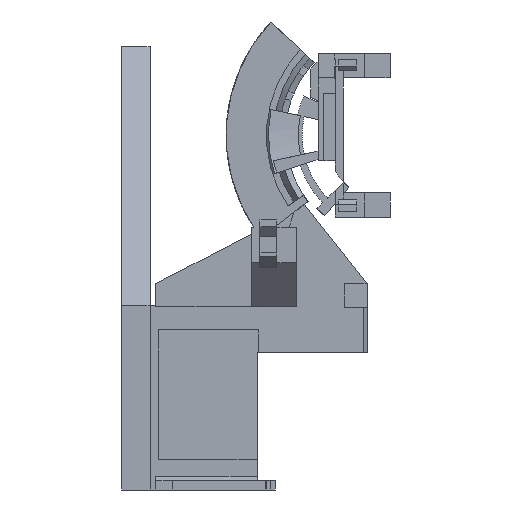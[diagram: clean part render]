
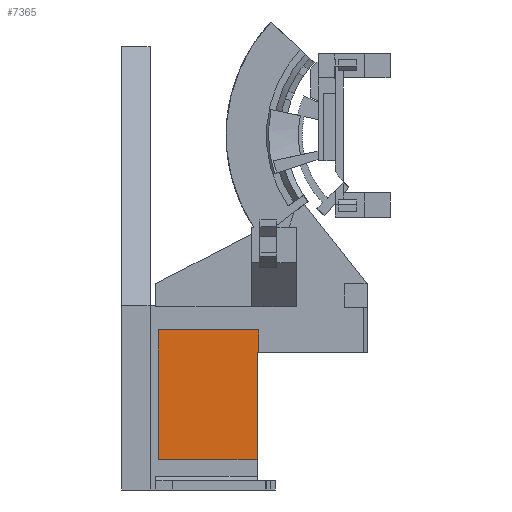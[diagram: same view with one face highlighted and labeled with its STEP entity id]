
A CAD part, front view. The second image highlights one B-rep face of the part: STEP entity #7365.
In plain terms, the highlighted planar face has unit normal (0, -1, 0).
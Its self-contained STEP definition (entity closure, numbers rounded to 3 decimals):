
#514 = PLANE('',#515);
#515 = AXIS2_PLACEMENT_3D('',#516,#517,#518);
#516 = CARTESIAN_POINT('',(24.,38.65,0.6));
#517 = DIRECTION('',(-1.,0.,0.));
#518 = DIRECTION('',(0.,0.,1.));
#1596 = VERTEX_POINT('',#1597);
#1597 = CARTESIAN_POINT('',(24.,36.05,6.));
#1611 = PLANE('',#1612);
#1612 = AXIS2_PLACEMENT_3D('',#1613,#1614,#1615);
#1613 = CARTESIAN_POINT('',(5.75,35.05,6.));
#1614 = DIRECTION('',(0.,0.,1.));
#1615 = DIRECTION('',(1.,0.,-0.));
#1623 = EDGE_CURVE('',#1624,#1596,#1626,.T.);
#1624 = VERTEX_POINT('',#1625);
#1625 = CARTESIAN_POINT('',(24.,36.05,25.));
#1626 = SURFACE_CURVE('',#1627,(#1631,#1638),.PCURVE_S1.);
#1627 = LINE('',#1628,#1629);
#1628 = CARTESIAN_POINT('',(24.,36.05,3.3));
#1629 = VECTOR('',#1630,1.);
#1630 = DIRECTION('',(0.,0.,-1.));
#1631 = PCURVE('',#514,#1632);
#1632 = DEFINITIONAL_REPRESENTATION('',(#1633),#1637);
#1633 = LINE('',#1634,#1635);
#1634 = CARTESIAN_POINT('',(2.7,-2.6));
#1635 = VECTOR('',#1636,1.);
#1636 = DIRECTION('',(-1.,0.));
#1637 = ( GEOMETRIC_REPRESENTATION_CONTEXT(2) 
PARAMETRIC_REPRESENTATION_CONTEXT() REPRESENTATION_CONTEXT('2D SPACE',''
  ) );
#1638 = PCURVE('',#1639,#1644);
#1639 = PLANE('',#1640);
#1640 = AXIS2_PLACEMENT_3D('',#1641,#1642,#1643);
#1641 = CARTESIAN_POINT('',(5.75,36.05,6.));
#1642 = DIRECTION('',(-0.,1.,0.));
#1643 = DIRECTION('',(0.,0.,1.));
#1644 = DEFINITIONAL_REPRESENTATION('',(#1645),#1649);
#1645 = LINE('',#1646,#1647);
#1646 = CARTESIAN_POINT('',(-2.7,18.25));
#1647 = VECTOR('',#1648,1.);
#1648 = DIRECTION('',(-1.,0.));
#1649 = ( GEOMETRIC_REPRESENTATION_CONTEXT(2) 
PARAMETRIC_REPRESENTATION_CONTEXT() REPRESENTATION_CONTEXT('2D SPACE',''
  ) );
#1665 = PLANE('',#1666);
#1666 = AXIS2_PLACEMENT_3D('',#1667,#1668,#1669);
#1667 = CARTESIAN_POINT('',(24.,38.65,25.));
#1668 = DIRECTION('',(-0.,0.,1.));
#1669 = DIRECTION('',(1.,0.,0.));
#7080 = PLANE('',#7081);
#7081 = AXIS2_PLACEMENT_3D('',#7082,#7083,#7084);
#7082 = CARTESIAN_POINT('',(24.25,35.05,6.));
#7083 = DIRECTION('',(1.,0.,-0.));
#7084 = DIRECTION('',(0.,0.,1.));
#7108 = PLANE('',#7109);
#7109 = AXIS2_PLACEMENT_3D('',#7110,#7111,#7112);
#7110 = CARTESIAN_POINT('',(5.75,35.05,29.));
#7111 = DIRECTION('',(0.,0.,1.));
#7112 = DIRECTION('',(1.,0.,-0.));
#7136 = PLANE('',#7137);
#7137 = AXIS2_PLACEMENT_3D('',#7138,#7139,#7140);
#7138 = CARTESIAN_POINT('',(6.5,35.15,0.6));
#7139 = DIRECTION('',(1.,0.,-0.));
#7140 = DIRECTION('',(0.,0.,1.));
#7271 = EDGE_CURVE('',#7272,#1624,#7274,.T.);
#7272 = VERTEX_POINT('',#7273);
#7273 = CARTESIAN_POINT('',(24.25,36.05,25.));
#7274 = SURFACE_CURVE('',#7275,(#7279,#7286),.PCURVE_S1.);
#7275 = LINE('',#7276,#7277);
#7276 = CARTESIAN_POINT('',(14.875,36.05,25.));
#7277 = VECTOR('',#7278,1.);
#7278 = DIRECTION('',(-1.,0.,0.));
#7279 = PCURVE('',#1665,#7280);
#7280 = DEFINITIONAL_REPRESENTATION('',(#7281),#7285);
#7281 = LINE('',#7282,#7283);
#7282 = CARTESIAN_POINT('',(-9.125,-2.6));
#7283 = VECTOR('',#7284,1.);
#7284 = DIRECTION('',(-1.,0.));
#7285 = ( GEOMETRIC_REPRESENTATION_CONTEXT(2) 
PARAMETRIC_REPRESENTATION_CONTEXT() REPRESENTATION_CONTEXT('2D SPACE',''
  ) );
#7286 = PCURVE('',#1639,#7287);
#7287 = DEFINITIONAL_REPRESENTATION('',(#7288),#7292);
#7288 = LINE('',#7289,#7290);
#7289 = CARTESIAN_POINT('',(19.,9.125));
#7290 = VECTOR('',#7291,1.);
#7291 = DIRECTION('',(0.,-1.));
#7292 = ( GEOMETRIC_REPRESENTATION_CONTEXT(2) 
PARAMETRIC_REPRESENTATION_CONTEXT() REPRESENTATION_CONTEXT('2D SPACE',''
  ) );
#7365 = ADVANCED_FACE('',(#7366),#1639,.F.);
#7366 = FACE_BOUND('',#7367,.F.);
#7367 = EDGE_LOOP('',(#7368,#7391,#7414,#7437,#7458,#7459));
#7368 = ORIENTED_EDGE('',*,*,#7369,.F.);
#7369 = EDGE_CURVE('',#7370,#1596,#7372,.T.);
#7370 = VERTEX_POINT('',#7371);
#7371 = CARTESIAN_POINT('',(6.5,36.05,6.));
#7372 = SURFACE_CURVE('',#7373,(#7377,#7384),.PCURVE_S1.);
#7373 = LINE('',#7374,#7375);
#7374 = CARTESIAN_POINT('',(5.75,36.05,6.));
#7375 = VECTOR('',#7376,1.);
#7376 = DIRECTION('',(1.,0.,-0.));
#7377 = PCURVE('',#1639,#7378);
#7378 = DEFINITIONAL_REPRESENTATION('',(#7379),#7383);
#7379 = LINE('',#7380,#7381);
#7380 = CARTESIAN_POINT('',(0.,0.));
#7381 = VECTOR('',#7382,1.);
#7382 = DIRECTION('',(0.,1.));
#7383 = ( GEOMETRIC_REPRESENTATION_CONTEXT(2) 
PARAMETRIC_REPRESENTATION_CONTEXT() REPRESENTATION_CONTEXT('2D SPACE',''
  ) );
#7384 = PCURVE('',#1611,#7385);
#7385 = DEFINITIONAL_REPRESENTATION('',(#7386),#7390);
#7386 = LINE('',#7387,#7388);
#7387 = CARTESIAN_POINT('',(0.,1.));
#7388 = VECTOR('',#7389,1.);
#7389 = DIRECTION('',(1.,0.));
#7390 = ( GEOMETRIC_REPRESENTATION_CONTEXT(2) 
PARAMETRIC_REPRESENTATION_CONTEXT() REPRESENTATION_CONTEXT('2D SPACE',''
  ) );
#7391 = ORIENTED_EDGE('',*,*,#7392,.F.);
#7392 = EDGE_CURVE('',#7393,#7370,#7395,.T.);
#7393 = VERTEX_POINT('',#7394);
#7394 = CARTESIAN_POINT('',(6.5,36.05,29.));
#7395 = SURFACE_CURVE('',#7396,(#7400,#7407),.PCURVE_S1.);
#7396 = LINE('',#7397,#7398);
#7397 = CARTESIAN_POINT('',(6.5,36.05,3.3));
#7398 = VECTOR('',#7399,1.);
#7399 = DIRECTION('',(-0.,0.,-1.));
#7400 = PCURVE('',#1639,#7401);
#7401 = DEFINITIONAL_REPRESENTATION('',(#7402),#7406);
#7402 = LINE('',#7403,#7404);
#7403 = CARTESIAN_POINT('',(-2.7,0.75));
#7404 = VECTOR('',#7405,1.);
#7405 = DIRECTION('',(-1.,0.));
#7406 = ( GEOMETRIC_REPRESENTATION_CONTEXT(2) 
PARAMETRIC_REPRESENTATION_CONTEXT() REPRESENTATION_CONTEXT('2D SPACE',''
  ) );
#7407 = PCURVE('',#7136,#7408);
#7408 = DEFINITIONAL_REPRESENTATION('',(#7409),#7413);
#7409 = LINE('',#7410,#7411);
#7410 = CARTESIAN_POINT('',(2.7,-0.9));
#7411 = VECTOR('',#7412,1.);
#7412 = DIRECTION('',(-1.,-0.));
#7413 = ( GEOMETRIC_REPRESENTATION_CONTEXT(2) 
PARAMETRIC_REPRESENTATION_CONTEXT() REPRESENTATION_CONTEXT('2D SPACE',''
  ) );
#7414 = ORIENTED_EDGE('',*,*,#7415,.T.);
#7415 = EDGE_CURVE('',#7393,#7416,#7418,.T.);
#7416 = VERTEX_POINT('',#7417);
#7417 = CARTESIAN_POINT('',(24.25,36.05,29.));
#7418 = SURFACE_CURVE('',#7419,(#7423,#7430),.PCURVE_S1.);
#7419 = LINE('',#7420,#7421);
#7420 = CARTESIAN_POINT('',(5.75,36.05,29.));
#7421 = VECTOR('',#7422,1.);
#7422 = DIRECTION('',(1.,0.,-0.));
#7423 = PCURVE('',#1639,#7424);
#7424 = DEFINITIONAL_REPRESENTATION('',(#7425),#7429);
#7425 = LINE('',#7426,#7427);
#7426 = CARTESIAN_POINT('',(23.,0.));
#7427 = VECTOR('',#7428,1.);
#7428 = DIRECTION('',(0.,1.));
#7429 = ( GEOMETRIC_REPRESENTATION_CONTEXT(2) 
PARAMETRIC_REPRESENTATION_CONTEXT() REPRESENTATION_CONTEXT('2D SPACE',''
  ) );
#7430 = PCURVE('',#7108,#7431);
#7431 = DEFINITIONAL_REPRESENTATION('',(#7432),#7436);
#7432 = LINE('',#7433,#7434);
#7433 = CARTESIAN_POINT('',(0.,1.));
#7434 = VECTOR('',#7435,1.);
#7435 = DIRECTION('',(1.,0.));
#7436 = ( GEOMETRIC_REPRESENTATION_CONTEXT(2) 
PARAMETRIC_REPRESENTATION_CONTEXT() REPRESENTATION_CONTEXT('2D SPACE',''
  ) );
#7437 = ORIENTED_EDGE('',*,*,#7438,.F.);
#7438 = EDGE_CURVE('',#7272,#7416,#7439,.T.);
#7439 = SURFACE_CURVE('',#7440,(#7444,#7451),.PCURVE_S1.);
#7440 = LINE('',#7441,#7442);
#7441 = CARTESIAN_POINT('',(24.25,36.05,6.));
#7442 = VECTOR('',#7443,1.);
#7443 = DIRECTION('',(0.,0.,1.));
#7444 = PCURVE('',#1639,#7445);
#7445 = DEFINITIONAL_REPRESENTATION('',(#7446),#7450);
#7446 = LINE('',#7447,#7448);
#7447 = CARTESIAN_POINT('',(0.,18.5));
#7448 = VECTOR('',#7449,1.);
#7449 = DIRECTION('',(1.,0.));
#7450 = ( GEOMETRIC_REPRESENTATION_CONTEXT(2) 
PARAMETRIC_REPRESENTATION_CONTEXT() REPRESENTATION_CONTEXT('2D SPACE',''
  ) );
#7451 = PCURVE('',#7080,#7452);
#7452 = DEFINITIONAL_REPRESENTATION('',(#7453),#7457);
#7453 = LINE('',#7454,#7455);
#7454 = CARTESIAN_POINT('',(0.,-1.));
#7455 = VECTOR('',#7456,1.);
#7456 = DIRECTION('',(1.,0.));
#7457 = ( GEOMETRIC_REPRESENTATION_CONTEXT(2) 
PARAMETRIC_REPRESENTATION_CONTEXT() REPRESENTATION_CONTEXT('2D SPACE',''
  ) );
#7458 = ORIENTED_EDGE('',*,*,#7271,.T.);
#7459 = ORIENTED_EDGE('',*,*,#1623,.T.);
